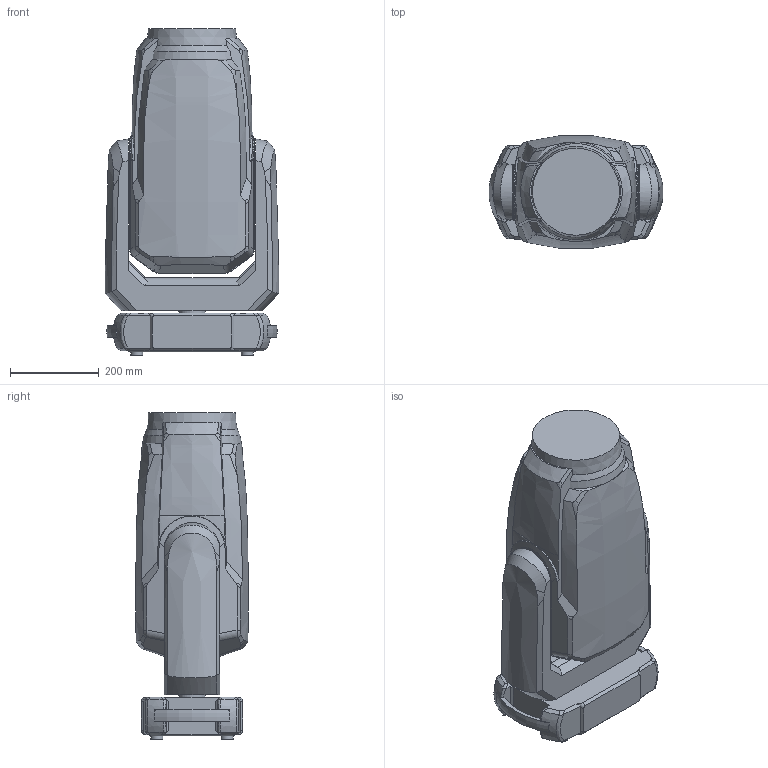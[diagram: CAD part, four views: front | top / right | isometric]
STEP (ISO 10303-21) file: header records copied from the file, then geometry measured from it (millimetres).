
FILE_DESCRIPTION(/* description */ ('Unknown'),/* implementation_level */ '2;1');
FILE_NAME(/* name */ '3D_Robin T1.5',/* time_stamp */ '2026-07-14T12:34:10+02:00',/* author */ ('vaclavek'),/* organization */ ('ROBE lighting s.r.o.'),/* preprocessor_version */ 'ST-DEVELOPER v20',/* originating_system */ 'Solid Edge',/* authorisation */ 'Unknown');
FILE_SCHEMA (('AUTOMOTIVE_DESIGN {1 0 10303 214 3 1 1}'));
Length unit declared in the file: millimetre
Products named in the file (4): 3D_Robin T1.5; Robin T1.5_base; Robin T1.5_arm; Robin T1.5_head
Assembly tree (3 placements, depth 2):
  3D_Robin T1.5
    Robin T1.5_base
    Robin T1.5_arm
    Robin T1.5_head
Bounding box: 391.92 x 254.1 x 735.9 mm (x, y, z)
Volume: 43907570.3 mm3; surface area: 1148601 mm2
Topology: 3 solids, 3 shells, 327 faces, 911 edges, 595 vertices
Faces by surface type: bspline 132, plane 125, cylinder 40, cone 24, sphere 4, torus 2
Full cylindrical faces by diameter (mm): 27 x4, 44 x2, 50 x1, 60 x1
Entity records: 18881 total; most frequent: CARTESIAN_POINT 11730, ORIENTED_EDGE 1798, DIRECTION 948, EDGE_CURVE 899, VERTEX_POINT 592, B_SPLINE_CURVE_WITH_KNOTS 475, EDGE_LOOP 345, FACE_BOUND 345
